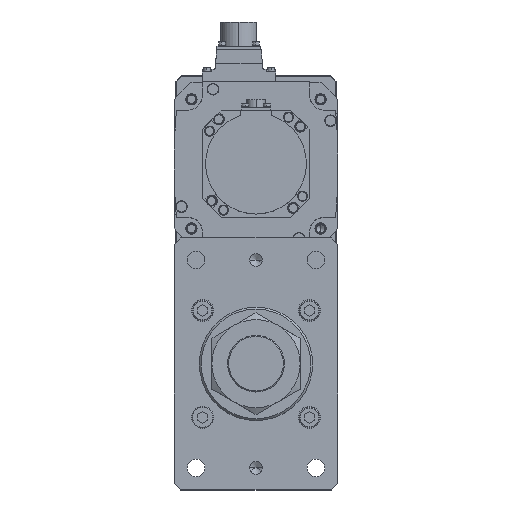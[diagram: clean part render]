
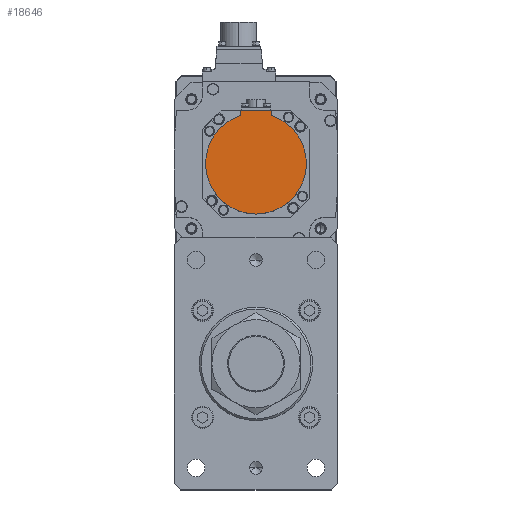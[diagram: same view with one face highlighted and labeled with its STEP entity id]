
A CAD part, top view. The second image highlights one B-rep face of the part: STEP entity #18646.
In plain terms, the highlighted planar face has unit normal (0, 0, 1) as drawn and (0, 0, -1) by its records, which use the part's own axes.
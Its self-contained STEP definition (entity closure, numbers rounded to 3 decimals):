
#545 = LINE ( 'NONE', #18216, #2599 ) ;
#565 = EDGE_CURVE ( 'NONE', #32147, #31694, #17263, .T. ) ;
#603 = CARTESIAN_POINT ( 'NONE',  ( 12., -38.158, -146.5 ) ) ;
#2408 = DIRECTION ( 'NONE',  ( 1., 0., 0. ) ) ;
#2427 = AXIS2_PLACEMENT_3D ( 'NONE', #29509, #13357, #24025 ) ;
#2599 = VECTOR ( 'NONE', #2818, 1000. ) ;
#2726 = DIRECTION ( 'NONE',  ( 0., 0., 1. ) ) ;
#2818 = DIRECTION ( 'NONE',  ( 0., 1., 0. ) ) ;
#3676 = EDGE_LOOP ( 'NONE', ( #19107, #13979, #17353, #12247, #11952, #11838 ) ) ;
#4468 = EDGE_CURVE ( 'NONE', #31694, #25959, #31456, .T. ) ;
#4972 = VECTOR ( 'NONE', #21984, 1000. ) ;
#5165 = EDGE_CURVE ( 'NONE', #24231, #32147, #13540, .T. ) ;
#6420 = CARTESIAN_POINT ( 'NONE',  ( 40., 0., -146.5 ) ) ;
#6999 = DIRECTION ( 'NONE',  ( 1., 0., 0. ) ) ;
#8629 = DIRECTION ( 'NONE',  ( 0., 1., 0. ) ) ;
#9283 = FACE_OUTER_BOUND ( 'NONE', #3676, .T. ) ;
#10197 = CARTESIAN_POINT ( 'NONE',  ( 0., 0., -146.5 ) ) ;
#10316 = VERTEX_POINT ( 'NONE', #25985 ) ;
#10614 = PLANE ( 'NONE',  #33470 ) ;
#10774 = AXIS2_PLACEMENT_3D ( 'NONE', #10197, #12985, #2408 ) ;
#11838 = ORIENTED_EDGE ( 'NONE', *, *, #15102, .T. ) ;
#11952 = ORIENTED_EDGE ( 'NONE', *, *, #5165, .F. ) ;
#12247 = ORIENTED_EDGE ( 'NONE', *, *, #565, .F. ) ;
#12898 = LINE ( 'NONE', #14250, #4972 ) ;
#12985 = DIRECTION ( 'NONE',  ( 0., 0., 1. ) ) ;
#13357 = DIRECTION ( 'NONE',  ( 0., 0., 1. ) ) ;
#13540 = LINE ( 'NONE', #30051, #20255 ) ;
#13886 = CIRCLE ( 'NONE', #26388, 40. ) ;
#13979 = ORIENTED_EDGE ( 'NONE', *, *, #22347, .F. ) ;
#14250 = CARTESIAN_POINT ( 'NONE',  ( 0., -42.5, -146.5 ) ) ;
#15102 = EDGE_CURVE ( 'NONE', #24231, #10316, #12898, .T. ) ;
#17263 = CIRCLE ( 'NONE', #10774, 40. ) ;
#17353 = ORIENTED_EDGE ( 'NONE', *, *, #4468, .F. ) ;
#17867 = CARTESIAN_POINT ( 'NONE',  ( 0., 0., -146.5 ) ) ;
#18216 = CARTESIAN_POINT ( 'NONE',  ( -12., -40.329, -146.5 ) ) ;
#18361 = CARTESIAN_POINT ( 'NONE',  ( 12., -42.5, -146.5 ) ) ;
#18456 = CARTESIAN_POINT ( 'NONE',  ( 0., -1.249, -146.5 ) ) ;
#18646 = ADVANCED_FACE ( 'NONE', ( #9283 ), #10614, .F. ) ;
#19107 = ORIENTED_EDGE ( 'NONE', *, *, #19150, .T. ) ;
#19150 = EDGE_CURVE ( 'NONE', #10316, #24535, #545, .T. ) ;
#19666 = CARTESIAN_POINT ( 'NONE',  ( -40., 0., -146.5 ) ) ;
#20255 = VECTOR ( 'NONE', #8629, 1000. ) ;
#21984 = DIRECTION ( 'NONE',  ( -1., 0., 0. ) ) ;
#22347 = EDGE_CURVE ( 'NONE', #25959, #24535, #13886, .T. ) ;
#24025 = DIRECTION ( 'NONE',  ( 1., 0., 0. ) ) ;
#24231 = VERTEX_POINT ( 'NONE', #18361 ) ;
#24535 = VERTEX_POINT ( 'NONE', #33557 ) ;
#25959 = VERTEX_POINT ( 'NONE', #19666 ) ;
#25985 = CARTESIAN_POINT ( 'NONE',  ( -12., -42.5, -146.5 ) ) ;
#26388 = AXIS2_PLACEMENT_3D ( 'NONE', #17867, #30740, #6999 ) ;
#29509 = CARTESIAN_POINT ( 'NONE',  ( 0., 0., -146.5 ) ) ;
#30051 = CARTESIAN_POINT ( 'NONE',  ( 12., -1.249, -146.5 ) ) ;
#30740 = DIRECTION ( 'NONE',  ( 0., 0., 1. ) ) ;
#31456 = CIRCLE ( 'NONE', #2427, 40. ) ;
#31694 = VERTEX_POINT ( 'NONE', #6420 ) ;
#32147 = VERTEX_POINT ( 'NONE', #603 ) ;
#33470 = AXIS2_PLACEMENT_3D ( 'NONE', #18456, #2726, #34504 ) ;
#33557 = CARTESIAN_POINT ( 'NONE',  ( -12., -38.158, -146.5 ) ) ;
#34504 = DIRECTION ( 'NONE',  ( 1., 0., 0. ) ) ;
